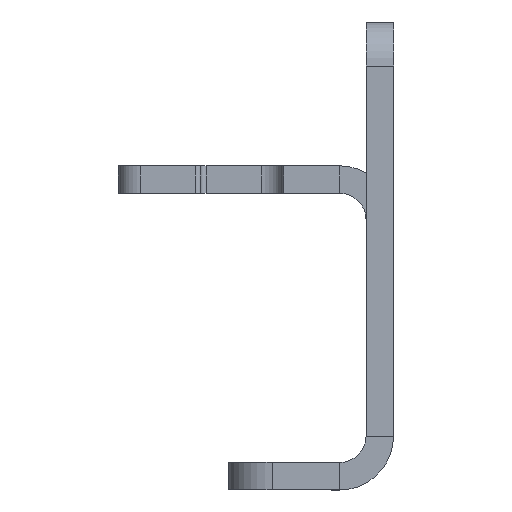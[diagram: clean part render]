
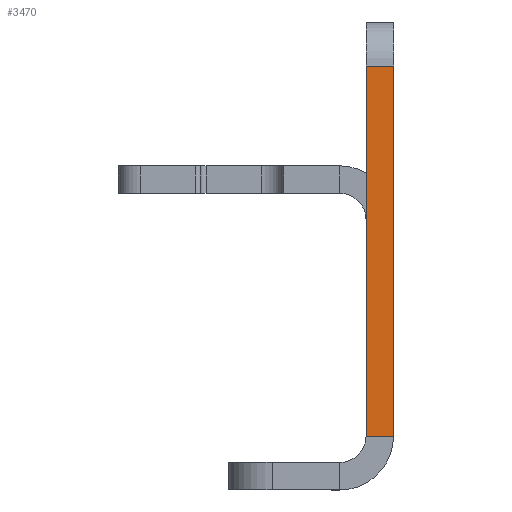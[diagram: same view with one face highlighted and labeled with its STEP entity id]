
A CAD part, left-side view. The second image highlights one B-rep face of the part: STEP entity #3470.
In plain terms, the highlighted planar face has unit normal (-1, 0, 0).
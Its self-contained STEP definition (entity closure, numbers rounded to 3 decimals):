
#289 = AXIS2_PLACEMENT_3D ( 'NONE', #7505, #7504, #7503 ) ;
#293 = FACE_OUTER_BOUND ( 'NONE', #4921, .T. ) ;
#463 = CARTESIAN_POINT ( 'NONE',  ( -336.25, -2.5, 49.1 ) ) ;
#508 = CARTESIAN_POINT ( 'NONE',  ( -336.25, 0., 49.1 ) ) ;
#509 = CARTESIAN_POINT ( 'NONE',  ( -336.25, 0., 15.47 ) ) ;
#848 = CARTESIAN_POINT ( 'NONE',  ( -336.25, -2.5, 15.47 ) ) ;
#865 = VERTEX_POINT ( 'NONE', #848 ) ;
#1204 = VERTEX_POINT ( 'NONE', #509 ) ;
#1205 = VERTEX_POINT ( 'NONE', #508 ) ;
#1250 = VERTEX_POINT ( 'NONE', #463 ) ;
#2107 = EDGE_CURVE ( 'NONE', #865, #1250, #3053, .T. ) ;
#2109 = EDGE_CURVE ( 'NONE', #1250, #1205, #3047, .T. ) ;
#2111 = EDGE_CURVE ( 'NONE', #865, #1204, #3041, .T. ) ;
#2475 = EDGE_CURVE ( 'NONE', #1204, #1205, #7764, .T. ) ;
#3039 = DIRECTION ( 'NONE',  ( 0., 1., 0. ) ) ;
#3040 = CARTESIAN_POINT ( 'NONE',  ( -336.25, -2.5, 15.47 ) ) ;
#3041 = LINE ( 'NONE', #3040, #10521 ) ;
#3045 = DIRECTION ( 'NONE',  ( 0., 1., 0. ) ) ;
#3046 = CARTESIAN_POINT ( 'NONE',  ( -336.25, -2.5, 49.1 ) ) ;
#3047 = LINE ( 'NONE', #3046, #10525 ) ;
#3051 = DIRECTION ( 'NONE',  ( 0., 0., 1. ) ) ;
#3052 = CARTESIAN_POINT ( 'NONE',  ( -336.25, -2.5, 4. ) ) ;
#3053 = LINE ( 'NONE', #3052, #10544 ) ;
#3470 = ADVANCED_FACE ( 'NONE', ( #293 ), #7506, .T. ) ;
#4921 = EDGE_LOOP ( 'NONE', ( #5889, #5891, #5890, #5892 ) ) ;
#5889 = ORIENTED_EDGE ( 'NONE', *, *, #2111, .F. ) ;
#5890 = ORIENTED_EDGE ( 'NONE', *, *, #2109, .T. ) ;
#5891 = ORIENTED_EDGE ( 'NONE', *, *, #2107, .T. ) ;
#5892 = ORIENTED_EDGE ( 'NONE', *, *, #2475, .F. ) ;
#6372 = VECTOR ( 'NONE', #7762, 1000. ) ;
#7503 = DIRECTION ( 'NONE',  ( 0., 0., 1. ) ) ;
#7504 = DIRECTION ( 'NONE',  ( -1., 0., 0. ) ) ;
#7505 = CARTESIAN_POINT ( 'NONE',  ( -336.25, -2.5, 4. ) ) ;
#7506 = PLANE ( 'NONE',  #289 ) ;
#7762 = DIRECTION ( 'NONE',  ( 0., 0., 1. ) ) ;
#7763 = CARTESIAN_POINT ( 'NONE',  ( -336.25, 0., 4. ) ) ;
#7764 = LINE ( 'NONE', #7763, #6372 ) ;
#10521 = VECTOR ( 'NONE', #3039, 1000. ) ;
#10525 = VECTOR ( 'NONE', #3045, 1000. ) ;
#10544 = VECTOR ( 'NONE', #3051, 1000. ) ;
